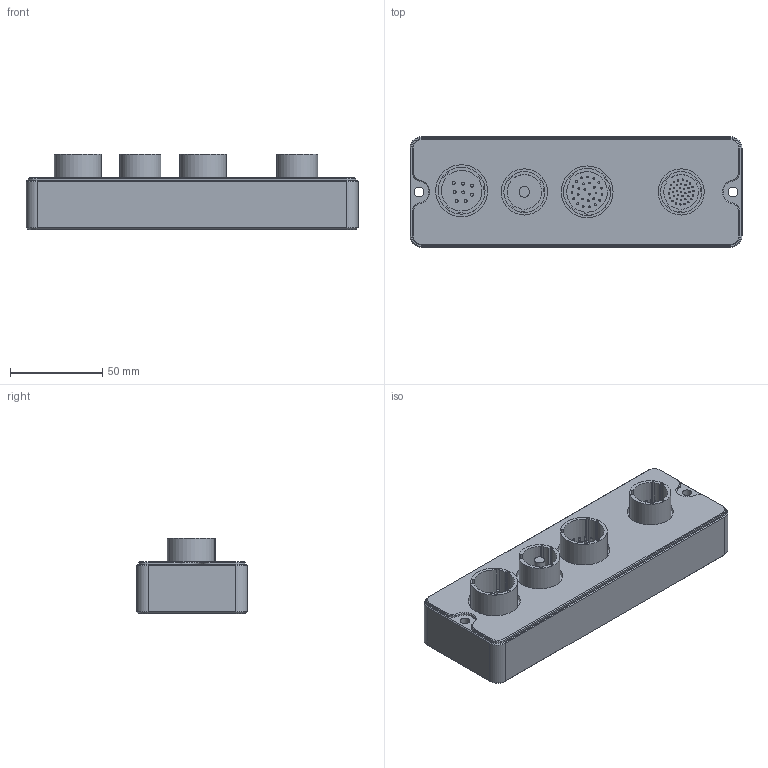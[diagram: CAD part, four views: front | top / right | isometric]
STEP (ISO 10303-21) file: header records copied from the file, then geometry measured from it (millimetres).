
FILE_DESCRIPTION(/* description */ ('Alibre Inc.'),/* implementation_level */ '2;1');
FILE_NAME(/* name */ 'export0',/* time_stamp */ '2015-10-29T14:20:00+11:00',/* author */ (''),/* organization */ (''),/* preprocessor_version */ 'ST-DEVELOPER v14',/* originating_system */ 'Alibre',/* authorisation */ '');
FILE_SCHEMA (('AUTOMOTIVE_DESIGN'));
Length unit declared in the file: centimetre
Bounding box: 180 x 60 x 40.7 mm (x, y, z)
Volume: 267557.4 mm3; surface area: 59685.4 mm2
Topology: 5 solids, 5 shells, 325 faces, 658 edges, 428 vertices
Faces by surface type: plane 179, cylinder 124, cone 18, extrusion 4
Full cylindrical faces by diameter (mm): 0.76 x37, 1 x26, 1.6 x8, 3.25 x8, 5.2 x2, 5.75 x1, 22.22 x2, 25 x2, 25.4 x2, 28.2 x2
Entity records: 8264 total; most frequent: DIRECTION 1333, CARTESIAN_POINT 1327, ORIENTED_EDGE 1128, AXIS2_PLACEMENT_3D 609, EDGE_CURVE 564, EDGE_LOOP 524, FACE_BOUND 524, VERTEX_POINT 428
